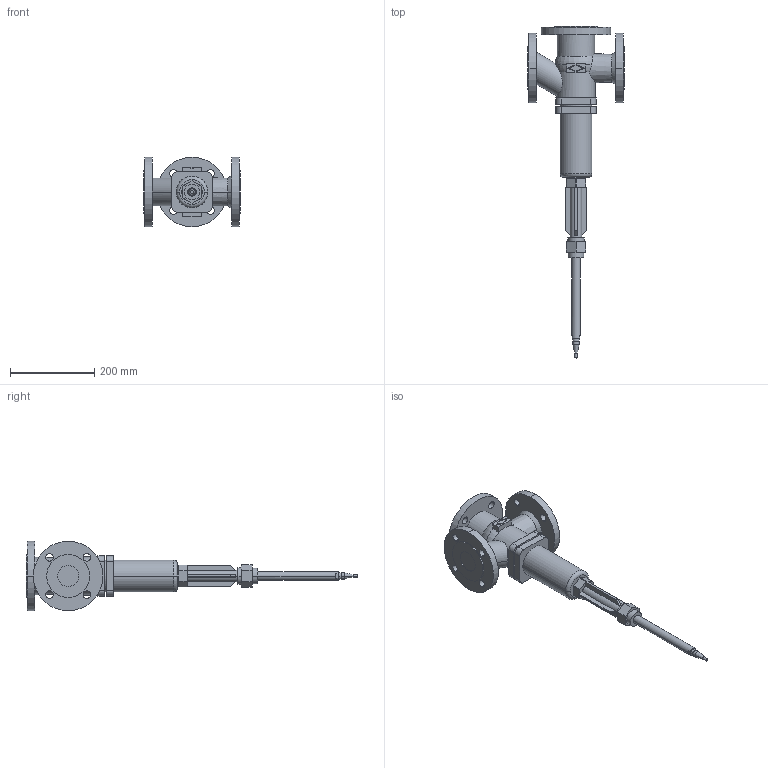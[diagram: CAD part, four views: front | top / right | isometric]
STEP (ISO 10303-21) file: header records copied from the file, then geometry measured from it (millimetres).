
FILE_DESCRIPTION(('CoCreate Modeling STEP Export'),'2;1');
FILE_NAME('c000004789.stp','2011-09-23T10:21:38',(''),(''),'CoCreate Modeling STEP processor for AP214 (Solid Model)','CoCreate Modeling 17.0 01-Apr-2010 (C) Parametric Technology GmbH','');
FILE_SCHEMA(('AUTOMOTIVE_DESIGN { 1 0 10303 214 1 1 1 1 }'));
Length unit declared in the file: millimetre
Products named in the file (1): 1
Bounding box: 230 x 787.44 x 165 mm (x, y, z)
Volume: 3778248.1 mm3; surface area: 328951.5 mm2
Topology: 1 solids, 1 shells, 194 faces, 484 edges, 314 vertices
Faces by surface type: plane 88, cylinder 86, cone 12, torus 8
Entity records: 7027 total; most frequent: CARTESIAN_POINT 1150, ORIENTED_EDGE 968, DIRECTION 802, EDGE_CURVE 484, VERTEX_POINT 314, AXIS2_PLACEMENT_3D 278, VECTOR 246, LINE 246
